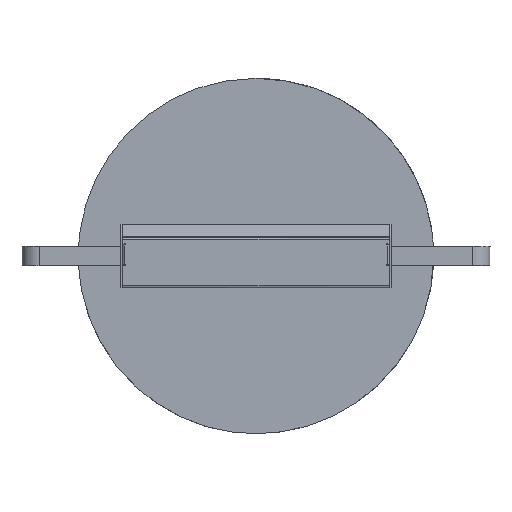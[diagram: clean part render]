
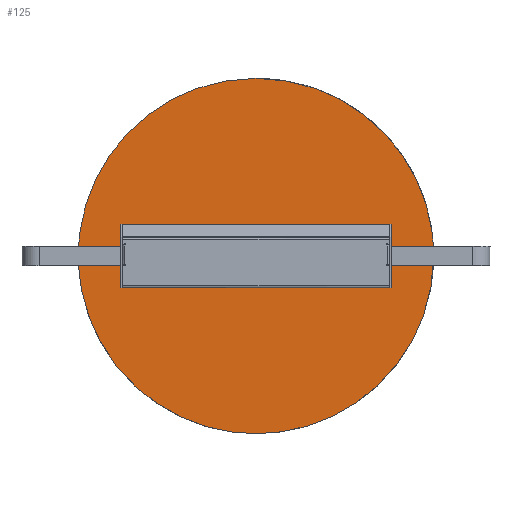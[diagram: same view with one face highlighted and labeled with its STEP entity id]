
A CAD part, front view. The second image highlights one B-rep face of the part: STEP entity #125.
In plain terms, the highlighted planar face has unit normal (0, -1, 0).
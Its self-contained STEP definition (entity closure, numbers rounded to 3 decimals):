
#125=ADVANCED_FACE('',(#666),#8916,.T.);
#666=FACE_OUTER_BOUND('',#1207,.T.);
#1207=EDGE_LOOP('',(#1777,#1778,#1779));
#1777=ORIENTED_EDGE('',*,*,#4819,.F.);
#1778=ORIENTED_EDGE('',*,*,#4823,.T.);
#1779=ORIENTED_EDGE('',*,*,#4820,.F.);
#4819=EDGE_CURVE('',#7901,#7902,#7383,.T.);
#4820=EDGE_CURVE('',#7902,#7903,#7384,.T.);
#4823=EDGE_CURVE('',#7901,#7903,#7386,.T.);
#7383=(
BOUNDED_CURVE()
B_SPLINE_CURVE(2,(#10959,#10960,#10961),.UNSPECIFIED.,.F.,.F.)
B_SPLINE_CURVE_WITH_KNOTS((3,3),(0.,500.),.UNSPECIFIED.)
CURVE()
GEOMETRIC_REPRESENTATION_ITEM()
RATIONAL_B_SPLINE_CURVE((1.,0.707,1.))
REPRESENTATION_ITEM('')
);
#7384=(
BOUNDED_CURVE()
B_SPLINE_CURVE(2,(#10962,#10963,#10964,#10965,#10966),.UNSPECIFIED.,.F.,
 .F.)
B_SPLINE_CURVE_WITH_KNOTS((3,2,3),(0.,500.,1000.),.UNSPECIFIED.)
CURVE()
GEOMETRIC_REPRESENTATION_ITEM()
RATIONAL_B_SPLINE_CURVE((1.,0.707,1.,0.707,1.))
REPRESENTATION_ITEM('')
);
#7386=(
BOUNDED_CURVE()
B_SPLINE_CURVE(2,(#10974,#10975,#10976),.UNSPECIFIED.,.F.,.F.)
B_SPLINE_CURVE_WITH_KNOTS((3,3),(-500.,0.),.UNSPECIFIED.)
CURVE()
GEOMETRIC_REPRESENTATION_ITEM()
RATIONAL_B_SPLINE_CURVE((1.,0.707,1.))
REPRESENTATION_ITEM('')
);
#7901=VERTEX_POINT('',#10950);
#7902=VERTEX_POINT('',#10951);
#7903=VERTEX_POINT('',#10952);
#8916=PLANE('',#9873);
#9873=AXIS2_PLACEMENT_3D('',#10946,#10403,$);
#10403=DIRECTION('',(0.,-1.,0.));
#10946=CARTESIAN_POINT('',(-300.012,-3.7,300.012));
#10950=CARTESIAN_POINT('',(0.,-3.7,-250.));
#10951=CARTESIAN_POINT('',(-250.,-3.7,0.));
#10952=CARTESIAN_POINT('',(250.,-3.7,0.));
#10959=CARTESIAN_POINT('',(0.,-3.7,-250.));
#10960=CARTESIAN_POINT('',(-250.,-3.7,-250.));
#10961=CARTESIAN_POINT('',(-250.,-3.7,0.));
#10962=CARTESIAN_POINT('',(-250.,-3.7,0.));
#10963=CARTESIAN_POINT('',(-250.,-3.7,250.));
#10964=CARTESIAN_POINT('',(0.,-3.7,250.));
#10965=CARTESIAN_POINT('',(250.,-3.7,250.));
#10966=CARTESIAN_POINT('',(250.,-3.7,0.));
#10974=CARTESIAN_POINT('',(0.,-3.7,-250.));
#10975=CARTESIAN_POINT('',(250.,-3.7,-250.));
#10976=CARTESIAN_POINT('',(250.,-3.7,0.));
